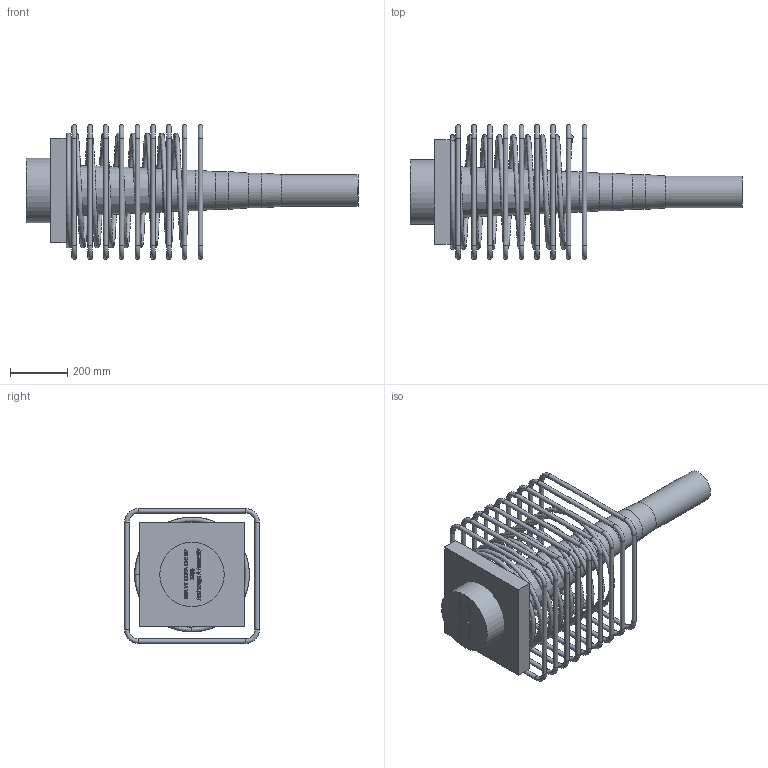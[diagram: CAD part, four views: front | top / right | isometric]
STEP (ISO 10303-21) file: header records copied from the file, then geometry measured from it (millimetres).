
FILE_DESCRIPTION(/* description */ (''),/* implementation_level */ '2;1');
FILE_NAME(/* name */ 'Z:\04 Publications\05 Give-out\BBR\6_3D_Models\BBR VT CONA CMI\BBR VT CONA CMI SP\02206\BBR VT CONA CMI SP 2206_Anchorage A Assembly_CS-34,28.stp',/* time_stamp */ '2017-05-05T15:55:45+02:00',/* author */ ('IP'),/* organization */ (''),/* preprocessor_version */ 'ST-DEVELOPER v16.1',/* originating_system */ 'Autodesk Inventor 2016',/* authorisation */ '');
FILE_SCHEMA (('AUTOMOTIVE_DESIGN { 1 0 10303 214 3 1 1 }'));
Length unit declared in the file: millimetre
Products named in the file (1): BBR VT CONA CMI SP 2206_Anchorage A Assembly_CS-34,28
Bounding box: 1157.1 x 470 x 470 mm (x, y, z)
Volume: 31533107.5 mm3; surface area: 2166259.2 mm2
Topology: 11 solids, 11 shells, 700 faces, 1844 edges, 1203 vertices
Faces by surface type: plane 313, bspline 304, torus 41, cylinder 41, cone 1
Full cylindrical faces by diameter (mm): 16 x36, 111.725 x1, 121.793 x1, 131.862 x1, 141.932 x1, 225 x1
Entity records: 27112 total; most frequent: CARTESIAN_POINT 11432, ORIENTED_EDGE 3524, DIRECTION 2035, EDGE_CURVE 1759, VERTEX_POINT 1201, LINE 1059, VECTOR 1059, EDGE_LOOP 843
